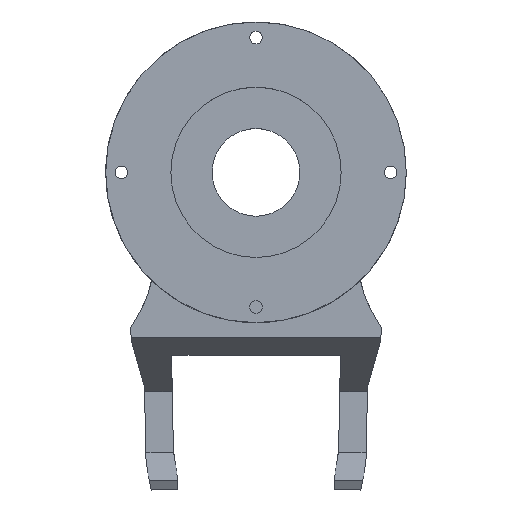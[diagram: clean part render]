
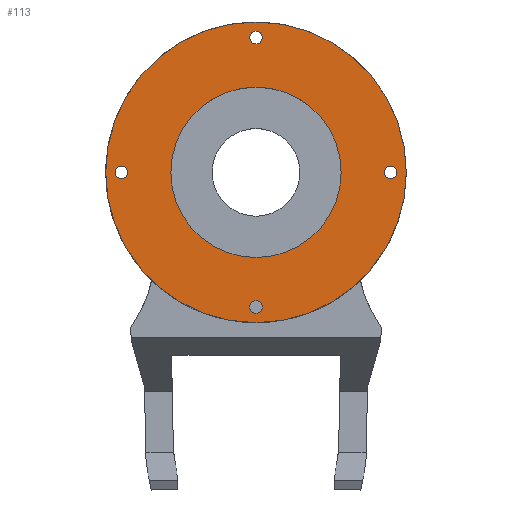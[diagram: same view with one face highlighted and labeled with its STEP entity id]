
A CAD part, top view. The second image highlights one B-rep face of the part: STEP entity #113.
In plain terms, the highlighted planar face has unit normal (0, 0, 1).
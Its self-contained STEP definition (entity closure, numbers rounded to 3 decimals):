
#113 = ADVANCED_FACE( '', ( #264, #265, #266, #267, #268, #269 ), #270, .T. );
#264 = FACE_BOUND( '', #465, .T. );
#265 = FACE_BOUND( '', #466, .T. );
#266 = FACE_BOUND( '', #467, .T. );
#267 = FACE_BOUND( '', #468, .T. );
#268 = FACE_BOUND( '', #469, .T. );
#269 = FACE_OUTER_BOUND( '', #470, .T. );
#270 = PLANE( '', #471 );
#465 = EDGE_LOOP( '', ( #767 ) );
#466 = EDGE_LOOP( '', ( #768 ) );
#467 = EDGE_LOOP( '', ( #769 ) );
#468 = EDGE_LOOP( '', ( #770 ) );
#469 = EDGE_LOOP( '', ( #771 ) );
#470 = EDGE_LOOP( '', ( #772 ) );
#471 = AXIS2_PLACEMENT_3D( '', #773, #774, #775 );
#767 = ORIENTED_EDGE( '', *, *, #1253, .F. );
#768 = ORIENTED_EDGE( '', *, *, #1254, .F. );
#769 = ORIENTED_EDGE( '', *, *, #1255, .F. );
#770 = ORIENTED_EDGE( '', *, *, #1256, .F. );
#771 = ORIENTED_EDGE( '', *, *, #1257, .F. );
#772 = ORIENTED_EDGE( '', *, *, #1258, .T. );
#773 = CARTESIAN_POINT( '', ( 0., 53.75, 0. ) );
#774 = DIRECTION( '', ( 0., 0., 1. ) );
#775 = DIRECTION( '', ( 1., 0., 0. ) );
#1253 = EDGE_CURVE( '', #1531, #1531, #1532, .T. );
#1254 = EDGE_CURVE( '', #1533, #1533, #1534, .T. );
#1255 = EDGE_CURVE( '', #1535, #1535, #1536, .T. );
#1256 = EDGE_CURVE( '', #1537, #1537, #1538, .T. );
#1257 = EDGE_CURVE( '', #1539, #1539, #1540, .T. );
#1258 = EDGE_CURVE( '', #1541, #1541, #1542, .T. );
#1531 = VERTEX_POINT( '', #1926 );
#1532 = CIRCLE( '', #1927, 2.5 );
#1533 = VERTEX_POINT( '', #1928 );
#1534 = CIRCLE( '', #1929, 34. );
#1535 = VERTEX_POINT( '', #1930 );
#1536 = CIRCLE( '', #1931, 2.5 );
#1537 = VERTEX_POINT( '', #1932 );
#1538 = CIRCLE( '', #1933, 2.5 );
#1539 = VERTEX_POINT( '', #1934 );
#1540 = CIRCLE( '', #1935, 2.5 );
#1541 = VERTEX_POINT( '', #1936 );
#1542 = CIRCLE( '', #1937, 60. );
#1926 = CARTESIAN_POINT( '', ( -51.25, 53.75, 0. ) );
#1927 = AXIS2_PLACEMENT_3D( '', #2221, #2222, #2223 );
#1928 = CARTESIAN_POINT( '', ( 34., 53.75, 0. ) );
#1929 = AXIS2_PLACEMENT_3D( '', #2224, #2225, #2226 );
#1930 = CARTESIAN_POINT( '', ( 2.5, 107.5, 0. ) );
#1931 = AXIS2_PLACEMENT_3D( '', #2227, #2228, #2229 );
#1932 = CARTESIAN_POINT( '', ( 2.5, 0., 0. ) );
#1933 = AXIS2_PLACEMENT_3D( '', #2230, #2231, #2232 );
#1934 = CARTESIAN_POINT( '', ( 56.25, 53.75, 0. ) );
#1935 = AXIS2_PLACEMENT_3D( '', #2233, #2234, #2235 );
#1936 = CARTESIAN_POINT( '', ( 60., 53.75, 0. ) );
#1937 = AXIS2_PLACEMENT_3D( '', #2236, #2237, #2238 );
#2221 = CARTESIAN_POINT( '', ( -53.75, 53.75, 0. ) );
#2222 = DIRECTION( '', ( 0., 0., 1. ) );
#2223 = DIRECTION( '', ( 1., 0., 0. ) );
#2224 = CARTESIAN_POINT( '', ( 0., 53.75, 0. ) );
#2225 = DIRECTION( '', ( 0., 0., 1. ) );
#2226 = DIRECTION( '', ( 1., 0., 0. ) );
#2227 = CARTESIAN_POINT( '', ( 0., 107.5, 0. ) );
#2228 = DIRECTION( '', ( 0., 0., 1. ) );
#2229 = DIRECTION( '', ( 1., 0., 0. ) );
#2230 = CARTESIAN_POINT( '', ( 0., 0., 0. ) );
#2231 = DIRECTION( '', ( 0., 0., 1. ) );
#2232 = DIRECTION( '', ( 1., 0., 0. ) );
#2233 = CARTESIAN_POINT( '', ( 53.75, 53.75, 0. ) );
#2234 = DIRECTION( '', ( 0., 0., 1. ) );
#2235 = DIRECTION( '', ( 1., 0., 0. ) );
#2236 = CARTESIAN_POINT( '', ( 0., 53.75, 0. ) );
#2237 = DIRECTION( '', ( 0., 0., 1. ) );
#2238 = DIRECTION( '', ( 1., 0., 0. ) );
